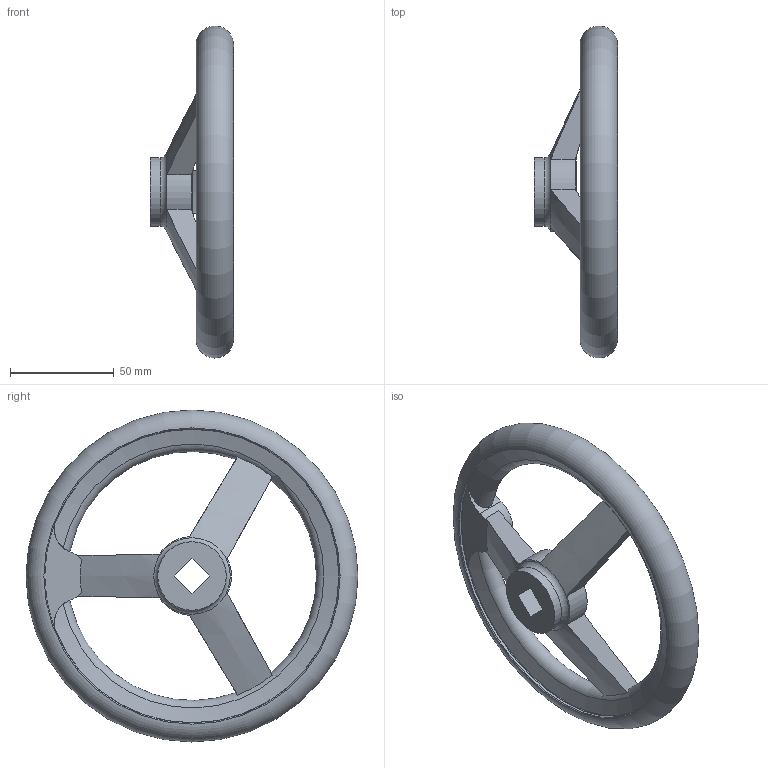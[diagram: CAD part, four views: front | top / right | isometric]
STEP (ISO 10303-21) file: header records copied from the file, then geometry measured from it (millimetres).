
FILE_DESCRIPTION( ( 'STEP AP203' ), '1' );
FILE_NAME( 'C:/Temp/Ganter_Step_05_03_2020/data/1_3/din_950/din_950_v/din_950_v_a/Handwheel DIN 950-AL-160-V12-A.stp', '2020-03-05T10:31:32', ( 'License CC BY-ND 4.0' ), ( 'CADENAS' ), ' ', 'PARTsolutions', ' ' );
FILE_SCHEMA( ( 'CONFIG_CONTROL_DESIGN' ) );
Length unit declared in the file: millimetre
Products named in the file (1): _Handwheel DIN 950-AL-160-V12-A
Bounding box: 40 x 159.99 x 159.99 mm (x, y, z)
Volume: 152181 mm3; surface area: 39072.2 mm2
Topology: 1 solids, 1 shells, 38 faces, 110 edges, 70 vertices
Faces by surface type: plane 14, cylinder 10, torus 10, cone 4
Full cylindrical faces by diameter (mm): 33 x2, 142 x2
Entity records: 1518 total; most frequent: CARTESIAN_POINT 568, ORIENTED_EDGE 186, DIRECTION 176, EDGE_CURVE 93, AXIS2_PLACEMENT_3D 77, VERTEX_POINT 67, EDGE_LOOP 55, FACE_OUTER_BOUND 49
